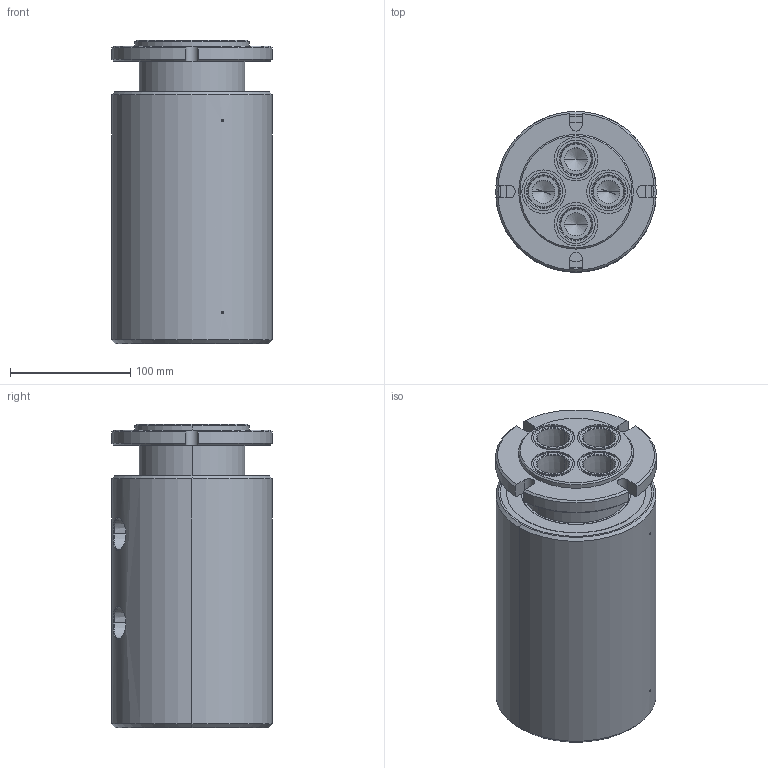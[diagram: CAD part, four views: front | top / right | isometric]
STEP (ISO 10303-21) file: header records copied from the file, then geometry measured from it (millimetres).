
FILE_DESCRIPTION (( 'STEP AP214' ), '1' );
FILE_NAME ('GP(M)-540.STEP', '2013-02-06T13:40:49', ( '' ), ( '' ), 'SwSTEP 2.0', 'SolidWorks 2011', '' );
FILE_SCHEMA (( 'AUTOMOTIVE_DESIGN' ));
Length unit declared in the file: inch
Products named in the file (1): GP(M)-540
Bounding box: 133.35 x 133.35 x 251.87 mm (x, y, z)
Volume: 3104296.1 mm3; surface area: 170644.9 mm2
Topology: 1 solids, 1 shells, 204 faces, 478 edges, 290 vertices
Faces by surface type: cylinder 85, cone 66, plane 43, bspline 8, torus 2
Entity records: 7349 total; most frequent: CARTESIAN_POINT 2385, DIRECTION 1010, ORIENTED_EDGE 900, EDGE_CURVE 450, AXIS2_PLACEMENT_3D 415, VERTEX_POINT 290, EDGE_LOOP 246, CIRCLE 218
